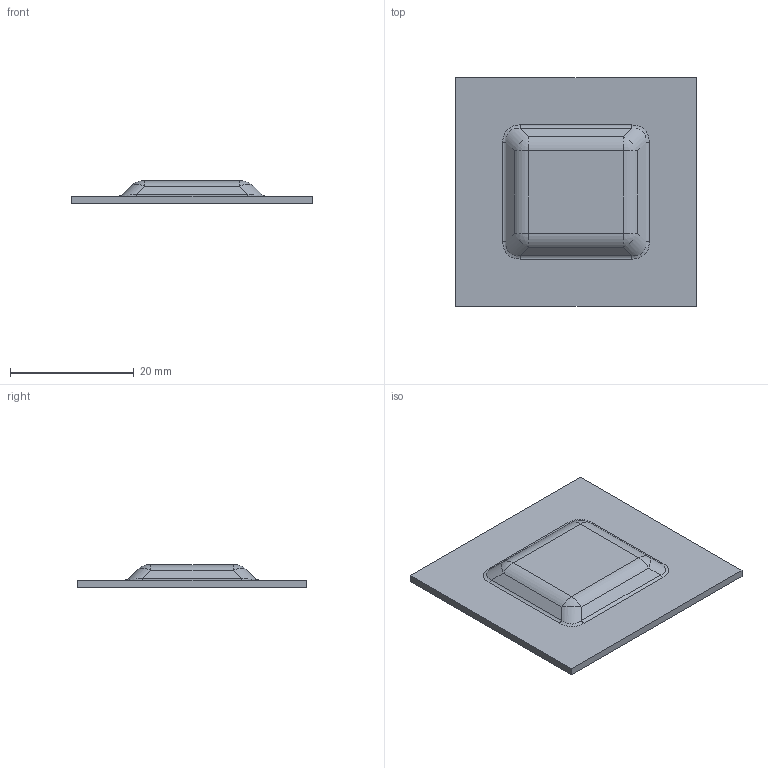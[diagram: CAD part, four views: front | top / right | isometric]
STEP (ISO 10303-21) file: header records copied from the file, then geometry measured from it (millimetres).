
FILE_DESCRIPTION((''),'2;1');
FILE_NAME('C:/Users/ericfrey/Desktop/441-2954-00-1 REV 06 EMBOSS.STP', '2022-12-09T17:30:41',(''), (''), 'Kubotek Kosmos Version 4.1.0.0', 'KeyCreator Pro', '');
FILE_SCHEMA(('CONFIG_CONTROL_DESIGN'));
Length unit declared in the file: inch
Bounding box: 38.9 x 36.9 x 3.7 mm (x, y, z)
Volume: 1797 mm3; surface area: 3176.9 mm2
Topology: 1 solids, 1 shells, 56 faces, 120 edges, 72 vertices
Faces by surface type: cylinder 24, plane 16, bspline 8, sphere 8
Entity records: 2406 total; most frequent: CARTESIAN_POINT 892, DIRECTION 242, ORIENTED_EDGE 232, GENERAL_PROPERTY 173, EDGE_CURVE 116, AXIS2_PLACEMENT_3D 89, VERTEX_POINT 64, VECTOR 64
